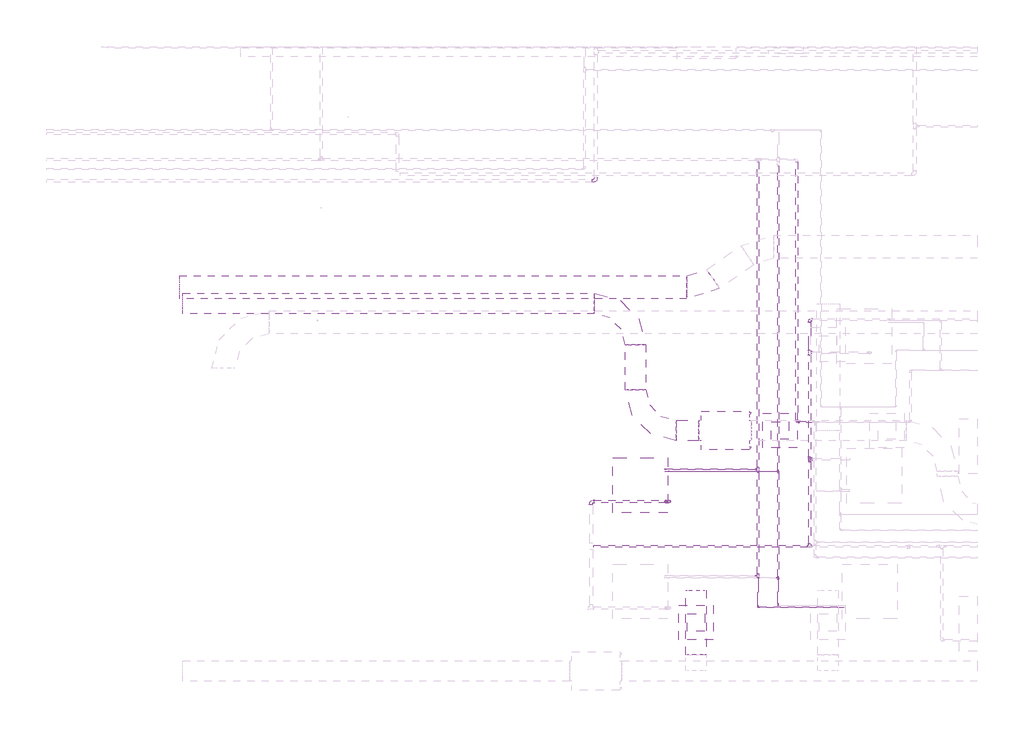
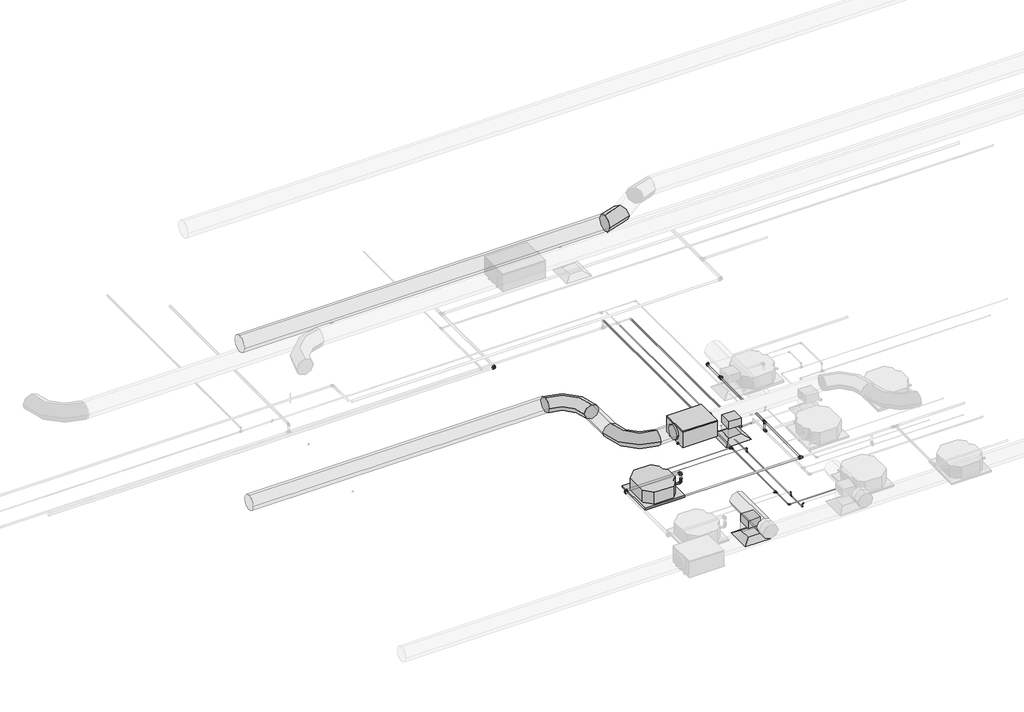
# One storey, part 5 of 21: 30 pipe fittings, 23 pipe segments, 7 duct segments, 5 duct fittings, 2 air terminals, 2 proxies.
"""IFC4 building model written with IfcOpenShell, lengths in millimetres."""

from ifc_helpers import new_model, si_unit, point, frame, frame_2d, origin, place, context, project, spatial, polyline, circle_curve, trimmed, segment, composite_curve, outline, extrude, transform, mapped, element, save
from components import air_terminal_ff221211, mechanical_equipment_53173f38, fh_fh_355_93b582f7, duct_fitting_550a0fe9, duct_fitting_2_d_f5f09e9f, duct_fitting_2_d_8456317d, pipe_fitting_144f4440, pipe_fitting_14eb6376, pipe_fitting_1f557113, pipe_fitting_c8e70db0, pipe_fitting_a5ff4f7d, pipe_fitting_660e7500, pipe_fitting_182e23ec, pipe_fitting_39558790, pipe_fitting_f84f6400, pipe_fitting_260e0dbe, pipe_fitting_6af5823a, pipe_fitting_09a8df96, pipe_fitting_089e84c0, pipe_fitting_006aca9c, pipe_fitting_c294872a, pipe_fitting_03efc798, pipe_fitting_ad1066de, pipe_fitting_b8e29e14, pipe_fitting_fefc82c8, pipe_fitting_c900cfc2, pipe_fitting_16c020f5, pipe_fitting_59d1f3e3, pipe_fitting_ae0032d9, pipe_fitting_5a6d96d3

model = new_model("IFC4")

# Units and contexts
model_context = context("Model", 3, world=origin())
ifc_project = project(units=[si_unit("LENGTHUNIT", "METRE", prefix="MILLI")], contexts=[model_context])

# Site, building, storey
site = spatial("IfcSite", under=ifc_project)
building = spatial("IfcBuilding", under=site)
storey = spatial("IfcBuildingStorey", under=building, Name="Nível 1", Elevation=0.0)

# Air terminals
placement = place(None, origin())
air_terminal_shape = air_terminal_ff221211(model_context)
element("IfcAirTerminal", 1, ObjectType="M_Difusor de retorno : 600 x 600 Face 300 x 300 Conexão", at=placement, inside=storey, context=model_context, shape_type="MappedRepresentation", body=[
    mapped(air_terminal_shape, transform((7458.5065764, -4543.7697994, 3000.0), x_axis=(0.0, -1.0, 0.0), y_axis=(1.0, 0.0, 0.0), z_axis=(0.0, 0.0, 1.0))),
])
element("IfcAirTerminal", 2, ObjectType="M_Difusor de fornecimento : 600 x 600 Face 300 x 300 Conexão", at=placement, inside=storey, context=model_context, shape_type="MappedRepresentation", body=[
    mapped(air_terminal_shape, transform((6000.8158576, -7871.8680027, 3000.0), x_axis=(1.0, 0.0, 0.0), y_axis=(0.0, 1.0, 0.0), z_axis=(0.0, 0.0, 1.0))),
])

# Proxies
mechanical_equipment_shape = mechanical_equipment_53173f38(model_context)
element("IfcBuildingElementProxy", 3, Name="Midea_VRF_Indoor_4-way Cassette_MI-90(100,112,140)Q4_DHN1-D (2nd DC) : MI2-140Q4DHN1", ObjectType="Midea_VRF_Indoor_4-way Cassette_MI-90(100,112,140)Q4_DHN1-D (2nd DC) : MI2-140Q4DHN1", at=placement, inside=storey, context=model_context, shape_type="MappedRepresentation", body=[
    mapped(mechanical_equipment_shape, transform((5033.5065764, -5489.5068427, 3000.4862867), x_axis=(1.0, 0.0, 0.0), y_axis=(0.0, 1.0, 0.0), z_axis=(0.0, 0.0, 1.0))),
])
fh_fh_355_shape = fh_fh_355_93b582f7(model_context)
element("IfcBuildingElementProxy", 4, Name="FH : FH 355", ObjectType="FH : FH 355", at=placement, inside=storey, context=model_context, shape_type="MappedRepresentation", body=[
    mapped(fh_fh_355_shape, transform((6503.1156645, -4543.7697994, 3400.0), x_axis=(0.0, 1.0, 0.0), y_axis=(-1.0, 0.0, 0.0), z_axis=(0.0, 0.0, 1.0))),
])

# Duct fittings
duct_fitting_shape = duct_fitting_550a0fe9(model_context)
element("IfcDuctFitting", 5, ObjectType="M_Encaixe de duto retangular : Padrão", at=placement, inside=storey, context=model_context, shape_type="MappedRepresentation", body=[
    mapped(duct_fitting_shape, transform((7458.5065764, -4543.7697994, 3427.5), x_axis=(0.0, 0.0, -1.0), y_axis=(-1.0, 0.0, 0.0), z_axis=(0.0, 1.0, 0.0))),
])
element("IfcDuctFitting", 6, ObjectType="M_Encaixe de duto retangular : Padrão", at=placement, inside=storey, context=model_context, shape_type="MappedRepresentation", body=[
    mapped(duct_fitting_shape, transform((6000.8158576, -7871.8680027, 3427.5), x_axis=(0.0, 0.0, -1.0), y_axis=(0.0, -1.0, 0.0), z_axis=(-1.0, 0.0, 0.0))),
])
duct_fitting_2_d_shape = duct_fitting_2_d_f5f09e9f(model_context)
element("IfcDuctFitting", 7, ObjectType="M_Cotovelo redondo : 2 D", at=placement, inside=storey, context=model_context, shape_type="MappedRepresentation", body=[
    mapped(duct_fitting_2_d_shape, transform((6090.2097143, -2062.3959861, 7501.0), x_axis=(1.0, 0.0, 0.0), y_axis=(0.0, 1.0, 0.0), z_axis=(0.0, 0.0, 1.0))),
])
duct_fitting_2_d_2_shape = duct_fitting_2_d_8456317d(model_context)
element("IfcDuctFitting", 8, ObjectType="M_Cotovelo redondo : 2 D", at=placement, inside=storey, context=model_context, shape_type="MappedRepresentation", body=[
    mapped(duct_fitting_2_d_2_shape, transform((4949.1156645, -4543.7697994, 3605.0), x_axis=(0.0, -1.0, 0.0), y_axis=(1.0, 0.0, 0.0), z_axis=(0.0, 0.0, 1.0))),
])
element("IfcDuctFitting", 9, ObjectType="M_Cotovelo redondo : 2 D", at=placement, inside=storey, context=model_context, shape_type="MappedRepresentation", body=[
    mapped(duct_fitting_2_d_2_shape, transform((4949.1156645, -2343.7697994, 3605.0), x_axis=(0.0, 1.0, 0.0), y_axis=(-1.0, 0.0, 0.0), z_axis=(0.0, 0.0, 1.0))),
])

# Duct segments
element("IfcDuctSegment", 10, ObjectType="Torneiras / Raio curto", at=placement, inside=storey, context=model_context, shape_type="SweptSolid", body=[
    extrude(outline(composite_curve([segment(trimmed(circle_curve(frame_2d((-4543.7697994, 3605.0)), 177.5), [point((-4366.2697994, 3605.0))], [point((-4543.7697994, 3427.5))], False, "CARTESIAN"), True, "CONTINUOUS"), segment(trimmed(circle_curve(frame_2d((-4543.7697994, 3605.0)), 177.5), [point((-4543.7697994, 3427.5))], [point((-4721.2697994, 3605.0))], False, "CARTESIAN"), True, "CONTINUOUS"), segment(trimmed(circle_curve(frame_2d((-4543.7697994, 3605.0)), 177.5), [point((-4721.2697994, 3605.0))], [point((-4543.7697994, 3782.5))], False, "CARTESIAN"), True, "CONTINUOUS"), segment(trimmed(circle_curve(frame_2d((-4543.7697994, 3605.0)), 177.5), [point((-4543.7697994, 3782.5))], [point((-4366.2697994, 3605.0))], False, "CARTESIAN"), True, "CONTINUOUS")], self_intersect=False)), frame((5659.1156645, 0.0, 0.0), z_axis=(1.0, 0.0, 0.0), x_axis=(0.0, 1.0, 0.0)), (0.0, 0.0, 1.0), 390.0),
])
element("IfcDuctSegment", 11, ObjectType="Torneiras / Raio curto", at=placement, inside=storey, context=model_context, shape_type="SweptSolid", body=[
    extrude(outline(composite_curve([segment(trimmed(circle_curve(frame_2d((3605.0, 4949.1156645)), 177.5), [point((3605.0, 5126.6156645))], [point((3782.5, 4949.1156645))], False, "CARTESIAN"), True, "CONTINUOUS"), segment(trimmed(circle_curve(frame_2d((3605.0, 4949.1156645)), 177.5), [point((3782.5, 4949.1156645))], [point((3605.0, 4771.6156645))], False, "CARTESIAN"), True, "CONTINUOUS"), segment(trimmed(circle_curve(frame_2d((3605.0, 4949.1156645)), 177.5), [point((3605.0, 4771.6156645))], [point((3427.5, 4949.1156645))], False, "CARTESIAN"), True, "CONTINUOUS"), segment(trimmed(circle_curve(frame_2d((3605.0, 4949.1156645)), 177.5), [point((3427.5, 4949.1156645))], [point((3605.0, 5126.6156645))], False, "CARTESIAN"), True, "CONTINUOUS")], self_intersect=False)), frame((0.0, -3833.7697994, 0.0), z_axis=(0.0, 1.0, 0.0), x_axis=(0.0, 0.0, 1.0)), (0.0, 0.0, 1.0), 780.0),
])
element("IfcDuctSegment", 12, ObjectType="Torneiras / Raio curto", at=placement, inside=storey, context=model_context, shape_type="SweptSolid", body=[
    extrude(outline(composite_curve([segment(trimmed(circle_curve(frame_2d((-2343.7697994, 3605.0)), 177.5), [point((-2166.2697994, 3605.0))], [point((-2343.7697994, 3427.5))], False, "CARTESIAN"), True, "CONTINUOUS"), segment(trimmed(circle_curve(frame_2d((-2343.7697994, 3605.0)), 177.5), [point((-2343.7697994, 3427.5))], [point((-2521.2697994, 3605.0))], False, "CARTESIAN"), True, "CONTINUOUS"), segment(trimmed(circle_curve(frame_2d((-2343.7697994, 3605.0)), 177.5), [point((-2521.2697994, 3605.0))], [point((-2343.7697994, 3782.5))], False, "CARTESIAN"), True, "CONTINUOUS"), segment(trimmed(circle_curve(frame_2d((-2343.7697994, 3605.0)), 177.5), [point((-2343.7697994, 3782.5))], [point((-2166.2697994, 3605.0))], False, "CARTESIAN"), True, "CONTINUOUS")], self_intersect=False)), frame((-2892.5218355, 0.0, 0.0), z_axis=(1.0, 0.0, 0.0), x_axis=(0.0, 1.0, 0.0)), (0.0, 0.0, 1.0), 7131.6375),
])
element("IfcDuctSegment", 13, ObjectType="Torneiras / Raio curto", at=placement, inside=storey, context=model_context, shape_type="SweptSolid", body=[
    extrude(outline(composite_curve([segment(trimmed(circle_curve(frame_2d((3605.0, 6000.8158576)), 177.5), [point((3605.0, 6178.3158576))], [point((3782.5, 6000.8158576))], False, "CARTESIAN"), True, "CONTINUOUS"), segment(trimmed(circle_curve(frame_2d((3605.0, 6000.8158576)), 177.5), [point((3782.5, 6000.8158576))], [point((3605.0, 5823.3158576))], False, "CARTESIAN"), True, "CONTINUOUS"), segment(trimmed(circle_curve(frame_2d((3605.0, 6000.8158576)), 177.5), [point((3605.0, 5823.3158576))], [point((3427.5, 6000.8158576))], False, "CARTESIAN"), True, "CONTINUOUS"), segment(trimmed(circle_curve(frame_2d((3605.0, 6000.8158576)), 177.5), [point((3427.5, 6000.8158576))], [point((3605.0, 6178.3158576))], False, "CARTESIAN"), True, "CONTINUOUS")], self_intersect=False)), frame((0.0, -8432.3180027, 0.0), z_axis=(0.0, 1.0, 0.0), x_axis=(0.0, 0.0, 1.0)), (0.0, 0.0, 1.0), 1120.9),
])
element("IfcDuctSegment", 14, ObjectType="Raios cotovelos / torneiras", at=placement, inside=storey, context=model_context, shape_type="SweptSolid", body=[
    extrude(outline(polyline([(7608.5065764, -4693.7697994), (7308.5065764, -4693.7697994), (7308.5065764, -4393.7697994), (7608.5065764, -4393.7697994), (7608.5065764, -4693.7697994)])), frame((0.0, 0.0, 3101.6), z_axis=(0.0, 0.0, 1.0), x_axis=(1.0, 0.0, 0.0)), (0.0, 0.0, 1.0), 224.3),
])
element("IfcDuctSegment", 15, ObjectType="Raios cotovelos / torneiras", at=placement, inside=storey, context=model_context, shape_type="SweptSolid", body=[
    extrude(outline(polyline([(6150.8158576, -7721.8680027), (6150.8158576, -8021.8680027), (5850.8158576, -8021.8680027), (5850.8158576, -7721.8680027), (6150.8158576, -7721.8680027)])), frame((0.0, 0.0, 3101.6), z_axis=(0.0, 0.0, 1.0), x_axis=(1.0, 0.0, 0.0)), (0.0, 0.0, 1.0), 224.3),
])
element("IfcDuctSegment", 16, ObjectType="Torneiras / Raio curto", at=placement, inside=storey, context=model_context, shape_type="SweptSolid", body=[
    extrude(outline(composite_curve([segment(trimmed(circle_curve(frame_2d((-2062.3959861, 7501.0)), 200.0), [point((-1862.3959861, 7501.0))], [point((-2062.3959861, 7301.0))], False, "CARTESIAN"), True, "CONTINUOUS"), segment(trimmed(circle_curve(frame_2d((-2062.3959861, 7501.0)), 200.0), [point((-2062.3959861, 7301.0))], [point((-2262.3959861, 7501.0))], False, "CARTESIAN"), True, "CONTINUOUS"), segment(trimmed(circle_curve(frame_2d((-2062.3959861, 7501.0)), 200.0), [point((-2262.3959861, 7501.0))], [point((-2062.3959861, 7701.0))], False, "CARTESIAN"), True, "CONTINUOUS"), segment(trimmed(circle_curve(frame_2d((-2062.3959861, 7501.0)), 200.0), [point((-2062.3959861, 7701.0))], [point((-1862.3959861, 7501.0))], False, "CARTESIAN"), True, "CONTINUOUS")], self_intersect=False)), frame((-2952.6050864, 0.0, 0.0), z_axis=(1.0, 0.0, 0.0), x_axis=(0.0, 1.0, 0.0)), (0.0, 0.0, 1.0), 8790.5757696),
])

# Pipe fittings
pipe_fitting_shape = pipe_fitting_144f4440(model_context)
element("IfcPipeFitting", 17, ObjectType="Cotovelo - PVC - CW : Padrão", at=placement, inside=storey, context=model_context, shape_type="MappedRepresentation", body=[
    mapped(pipe_fitting_shape, transform((5528.9063239, -5774.5068427, 3252.3085101), x_axis=(1.0, 0.0, 0.0), y_axis=(0.0, 0.0, 1.0), z_axis=(0.0, -1.0, 0.0))),
])
element("IfcPipeFitting", 18, ObjectType="Cotovelo - PVC - CW : Padrão", at=placement, inside=storey, context=model_context, shape_type="MappedRepresentation", body=[
    mapped(pipe_fitting_shape, transform((7970.2375924, -2624.0130524, 3500.0), x_axis=(-1.0, 0.0, 0.0), y_axis=(0.0, -0.9999999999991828, 1.2784687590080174e-06), z_axis=(0.0, 1.2784687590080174e-06, 0.9999999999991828))),
])
pipe_fitting_2_shape = pipe_fitting_14eb6376(model_context)
element("IfcPipeFitting", 19, ObjectType="Tê de redução - PVC - CW : Padrão", at=placement, inside=storey, context=model_context, shape_type="MappedRepresentation", body=[
    mapped(pipe_fitting_2_shape, transform((7970.2375924, -6549.8952412, 3500.0053419), x_axis=(-0.9999999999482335, 0.0, 1.0175120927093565e-05), y_axis=(8.766176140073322e-11, -0.9999999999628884, 8.615304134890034e-06), z_axis=(1.0175120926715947e-05, 8.615304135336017e-06, 0.9999999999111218))),
])
element("IfcPipeFitting", 20, ObjectType="Tê de redução - PVC - CW : Padrão", at=placement, inside=storey, context=model_context, shape_type="MappedRepresentation", body=[
    mapped(pipe_fitting_2_shape, transform((7970.2375924, -3194.0130524, 3500.0007287), x_axis=(0.0, -0.9999999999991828, 1.2784687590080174e-06), y_axis=(-1.0, 0.0, 0.0), z_axis=(0.0, -1.2784687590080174e-06, -0.9999999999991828))),
])
pipe_fitting_3_shape = pipe_fitting_1f557113(model_context)
element("IfcPipeFitting", 21, ObjectType="Redutor de acoplamento - PVC - CW : Padrão", at=placement, inside=storey, context=model_context, shape_type="MappedRepresentation", body=[
    mapped(pipe_fitting_3_shape, transform((5528.9063239, -5774.5068427, 3297.3085101), x_axis=(0.0, 0.0, 1.0), y_axis=(0.0, -1.0, 0.0), z_axis=(1.0, 0.0, 0.0))),
])
pipe_fitting_4_shape = pipe_fitting_c8e70db0(model_context)
element("IfcPipeFitting", 22, ObjectType="Cotovelo - PVC - CW : Padrão", at=placement, inside=storey, context=model_context, shape_type="MappedRepresentation", body=[
    mapped(pipe_fitting_4_shape, transform((5528.9063239, -5774.5068427, 3500.0), x_axis=(0.0, 0.0, 1.0), y_axis=(-1.0, 0.0, 0.0), z_axis=(0.0, -1.0, 0.0))),
])
element("IfcPipeFitting", 23, ObjectType="Cotovelo - PVC - CW : Padrão", at=placement, inside=storey, context=model_context, shape_type="MappedRepresentation", body=[
    mapped(pipe_fitting_4_shape, transform((4180.9794608, -5774.5068427, 3500.0), x_axis=(-1.0, 0.0, 0.0), y_axis=(0.0, -0.9999999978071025, 6.622533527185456e-05), z_axis=(0.0, 6.622533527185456e-05, 0.9999999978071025))),
])
pipe_fitting_5_shape = pipe_fitting_a5ff4f7d(model_context)
element("IfcPipeFitting", 24, ObjectType="Bucha de redução reta - Soldada - CU : Padrão", at=placement, inside=storey, context=model_context, shape_type="MappedRepresentation", body=[
    mapped(pipe_fitting_5_shape, transform((7042.1766328, -7061.6844274, 3252.3001736), x_axis=(-0.9999999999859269, 0.0, 5.305303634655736e-06), y_axis=(0.0, -1.0, 0.0), z_axis=(5.305303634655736e-06, 0.0, 0.9999999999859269))),
])
element("IfcPipeFitting", 25, ObjectType="Bucha de redução reta - Soldada - CU : Padrão", at=placement, inside=storey, context=model_context, shape_type="MappedRepresentation", body=[
    mapped(pipe_fitting_5_shape, transform((7074.9048355, -7094.4315274, 3252.7945252), x_axis=(0.0, -1.0, 0.0), y_axis=(0.9999999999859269, 0.0, -5.305303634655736e-06), z_axis=(5.305303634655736e-06, 0.0, 0.9999999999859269))),
])
pipe_fitting_6_shape = pipe_fitting_660e7500(model_context)
element("IfcPipeFitting", 26, ObjectType="Tê - Soldado - CU : Padrão", at=placement, inside=storey, context=model_context, shape_type="MappedRepresentation", body=[
    mapped(pipe_fitting_6_shape, transform((7074.9048355, -7061.6844274, 3252.7945252), x_axis=(0.0, 1.0, 0.0), y_axis=(0.9999999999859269, 0.0, -5.305303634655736e-06), z_axis=(-5.305303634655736e-06, 0.0, -0.9999999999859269))),
])
pipe_fitting_7_shape = pipe_fitting_182e23ec(model_context)
element("IfcPipeFitting", 27, ObjectType="Bucha de redução reta - Soldada - CU : Padrão", at=placement, inside=storey, context=model_context, shape_type="MappedRepresentation", body=[
    mapped(pipe_fitting_7_shape, transform((7036.4048355, -5216.296029, 3252.7947295), x_axis=(-0.9999999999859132, 0.0, 5.307894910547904e-06), y_axis=(0.0, -1.0, 0.0), z_axis=(5.307894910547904e-06, 0.0, 0.9999999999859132))),
])
pipe_fitting_8_shape = pipe_fitting_39558790(model_context)
element("IfcPipeFitting", 28, ObjectType="Bucha de redução reta - Soldada - CU : Padrão", at=placement, inside=storey, context=model_context, shape_type="MappedRepresentation", body=[
    mapped(pipe_fitting_8_shape, transform((7074.9048328, -5254.296029, 3252.3), x_axis=(0.0, -1.0, 0.0), y_axis=(0.9999999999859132, 0.0, -5.307894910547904e-06), z_axis=(5.307894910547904e-06, 0.0, 0.9999999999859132))),
])
pipe_fitting_9_shape = pipe_fitting_f84f6400(model_context)
element("IfcPipeFitting", 29, ObjectType="Tê - Soldado - CU : Padrão", at=placement, inside=storey, context=model_context, shape_type="MappedRepresentation", body=[
    mapped(pipe_fitting_9_shape, transform((7424.7363367, -7095.4868693, 3052.2679138), x_axis=(0.0, 0.999999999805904, 1.9702587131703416e-05), y_axis=(0.0, 1.9702587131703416e-05, -0.999999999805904), z_axis=(-1.0, 0.0, 0.0))),
])
element("IfcPipeFitting", 30, ObjectType="Tê - Soldado - CU : Padrão", at=placement, inside=storey, context=model_context, shape_type="MappedRepresentation", body=[
    mapped(pipe_fitting_9_shape, transform((7424.7363367, -5250.0984709, 3052.3042727), x_axis=(0.0, 0.999999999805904, 1.9702587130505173e-05), y_axis=(0.0, 1.9702587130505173e-05, -0.999999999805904), z_axis=(-1.0, 0.0, 0.0))),
])
pipe_fitting_10_shape = pipe_fitting_260e0dbe(model_context)
element("IfcPipeFitting", 31, ObjectType="Cotovelo - Soldado - CU : Padrão", at=placement, inside=storey, context=model_context, shape_type="MappedRepresentation", body=[
    mapped(pipe_fitting_10_shape, transform((7424.7363367, -7095.4868693, 3147.3458787), x_axis=(0.0, 0.0, 1.0), y_axis=(-1.0, 0.0, 0.0), z_axis=(0.0, -1.0, 0.0))),
])
pipe_fitting_11_shape = pipe_fitting_6af5823a(model_context)
element("IfcPipeFitting", 32, ObjectType="Bucha de redução reta - Soldada - CU : Padrão", at=placement, inside=storey, context=model_context, shape_type="MappedRepresentation", body=[
    mapped(pipe_fitting_11_shape, transform((7424.7363367, -7117.0643692, 3052.2674887), x_axis=(0.0, -0.999999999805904, -1.9702587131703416e-05), y_axis=(1.0, 0.0, 0.0), z_axis=(0.0, -1.9702587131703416e-05, 0.999999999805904))),
])
pipe_fitting_12_shape = pipe_fitting_09a8df96(model_context)
element("IfcPipeFitting", 33, ObjectType="Cotovelo - Soldado - CU : Padrão", at=placement, inside=storey, context=model_context, shape_type="MappedRepresentation", body=[
    mapped(pipe_fitting_12_shape, transform((7424.7363208, -7574.3036129, 3147.2459687), x_axis=(-0.9999999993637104, 0.0, -3.5673226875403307e-05), y_axis=(3.5673226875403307e-05, 0.0, -0.9999999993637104), z_axis=(0.0, -1.0, 0.0))),
])
pipe_fitting_13_shape = pipe_fitting_089e84c0(model_context)
element("IfcPipeFitting", 34, ObjectType="Bucha de redução reta - Soldada - CU : Padrão", at=placement, inside=storey, context=model_context, shape_type="MappedRepresentation", body=[
    mapped(pipe_fitting_13_shape, transform((7424.7363208, -7574.3036129, 3122.8459687), x_axis=(0.0, 0.0, -1.0), y_axis=(-1.0, 0.0, 0.0), z_axis=(0.0, 1.0, 0.0))),
])
pipe_fitting_14_shape = pipe_fitting_006aca9c(model_context)
element("IfcPipeFitting", 35, ObjectType="Cotovelo - Soldado - CU : Padrão", at=placement, inside=storey, context=model_context, shape_type="MappedRepresentation", body=[
    mapped(pipe_fitting_14_shape, transform((7424.7363367, -7574.3036129, 3052.2584799), x_axis=(0.0, 0.0, -1.0), y_axis=(0.0, 1.0, 0.0), z_axis=(1.0, 0.0, 0.0))),
])
pipe_fitting_15_shape = pipe_fitting_c294872a(model_context)
element("IfcPipeFitting", 36, ObjectType="Cotovelo - Soldado - CU : Padrão", at=placement, inside=storey, context=model_context, shape_type="MappedRepresentation", body=[
    mapped(pipe_fitting_15_shape, transform((4261.4781645, -211.984439, 3252.3), x_axis=(1.0, 0.0, 0.0), y_axis=(0.0, 1.0, 0.0), z_axis=(0.0, 0.0, 1.0))),
])
pipe_fitting_16_shape = pipe_fitting_03efc798(model_context)
element("IfcPipeFitting", 37, ObjectType="Tê de redução - PVC - CW : Padrão", at=placement, inside=storey, context=model_context, shape_type="MappedRepresentation", body=[
    mapped(pipe_fitting_16_shape, transform((7970.2375924, -5040.569149, 3500.0030895), x_axis=(0.0, -0.9999999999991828, 1.2784687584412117e-06), y_axis=(0.0, 1.2784687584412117e-06, 0.9999999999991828), z_axis=(-1.0, 0.0, 0.0))),
])
pipe_fitting_17_shape = pipe_fitting_ad1066de(model_context)
element("IfcPipeFitting", 38, ObjectType="Cotovelo - PVC - CW : Padrão", at=placement, inside=storey, context=model_context, shape_type="MappedRepresentation", body=[
    mapped(pipe_fitting_17_shape, transform((7970.2375924, -5040.569149, 3252.2994084), x_axis=(0.0, 0.0, -1.0), y_axis=(1.0, 0.0, 0.0), z_axis=(0.0, -1.0, 0.0))),
])
pipe_fitting_18_shape = pipe_fitting_b8e29e14(model_context)
element("IfcPipeFitting", 39, ObjectType="Cotovelo - Soldado - CU : Padrão", at=placement, inside=storey, context=model_context, shape_type="MappedRepresentation", body=[
    mapped(pipe_fitting_18_shape, transform((7424.7363367, -5250.0984709, 3147.7750341), x_axis=(0.0, 0.0, 1.0), y_axis=(-1.0, 0.0, 0.0), z_axis=(0.0, -1.0, 0.0))),
])
pipe_fitting_19_shape = pipe_fitting_fefc82c8(model_context)
element("IfcPipeFitting", 40, ObjectType="Cotovelo - Soldado - CU : Padrão", at=placement, inside=storey, context=model_context, shape_type="MappedRepresentation", body=[
    mapped(pipe_fitting_19_shape, transform((7747.1766922, -4398.7799626, 3052.3), x_axis=(0.0, -1.0, 0.0), y_axis=(1.0, 0.0, 0.0), z_axis=(0.0, 0.0, 1.0))),
])
pipe_fitting_20_shape = pipe_fitting_c900cfc2(model_context)
element("IfcPipeFitting", 41, ObjectType="Bucha de redução reta - Soldada - CU : Padrão", at=placement, inside=storey, context=model_context, shape_type="MappedRepresentation", body=[
    mapped(pipe_fitting_20_shape, transform((5458.5065764, -5216.296029, 3252.3085101), x_axis=(1.0, 0.0, 0.0), y_axis=(0.0, 1.0, 0.0), z_axis=(0.0, 0.0, 1.0))),
])
pipe_fitting_21_shape = pipe_fitting_16c020f5(model_context)
element("IfcPipeFitting", 42, ObjectType="Cotovelo - Soldado - CU : Padrão", at=placement, inside=storey, context=model_context, shape_type="MappedRepresentation", body=[
    mapped(pipe_fitting_21_shape, transform((7074.9048355, -7608.1060547, 3252.7945252), x_axis=(0.0, -1.0, 0.0), y_axis=(0.9999999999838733, 0.0, 5.679216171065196e-06), z_axis=(-5.679216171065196e-06, 0.0, 0.9999999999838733))),
])
pipe_fitting_22_shape = pipe_fitting_59d1f3e3(model_context)
element("IfcPipeFitting", 43, ObjectType="Bucha de redução reta - Soldada - CU : Padrão", at=placement, inside=storey, context=model_context, shape_type="MappedRepresentation", body=[
    mapped(pipe_fitting_22_shape, transform((5518.9808167, -5250.0984709, 3147.3309354), x_axis=(1.0, 0.0, 0.0), y_axis=(0.0, 1.0, 0.0), z_axis=(0.0, 0.0, 1.0))),
])
pipe_fitting_23_shape = pipe_fitting_ae0032d9(model_context)
element("IfcPipeFitting", 44, ObjectType="Tê - Soldado - CU : Padrão", at=placement, inside=storey, context=model_context, shape_type="MappedRepresentation", body=[
    mapped(pipe_fitting_23_shape, transform((7074.9048355, -5216.296029, 3252.7945252), x_axis=(0.0, 1.0, 0.0), y_axis=(0.9999999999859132, 0.0, -5.307894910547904e-06), z_axis=(-5.307894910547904e-06, 0.0, -0.9999999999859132))),
])
pipe_fitting_24_shape = pipe_fitting_5a6d96d3(model_context)
element("IfcPipeFitting", 45, ObjectType="Bucha de redução reta - Soldada - CU : Padrão", at=placement, inside=storey, context=model_context, shape_type="MappedRepresentation", body=[
    mapped(pipe_fitting_24_shape, transform((7424.7363367, -7095.4868693, 3080.9739138), x_axis=(0.0, 0.0, 1.0), y_axis=(0.0, -1.0, 0.0), z_axis=(1.0, 0.0, 0.0))),
])
element("IfcPipeFitting", 46, ObjectType="Bucha de redução reta - Soldada - CU : Padrão", at=placement, inside=storey, context=model_context, shape_type="MappedRepresentation", body=[
    mapped(pipe_fitting_24_shape, transform((7424.7363367, -5250.0984709, 3081.0102727), x_axis=(0.0, 0.0, 1.0), y_axis=(0.0, -1.0, 0.0), z_axis=(1.0, 0.0, 0.0))),
])

# Pipe segments
element("IfcPipeSegment", 47, ObjectType="Tubos de cobre HVAC", at=placement, inside=storey, context=model_context, shape_type="SweptSolid", body=[
    extrude(outline(composite_curve([segment(trimmed(circle_curve(frame_2d((-5216.296029, 3252.7947967)), 7.935), [point((-5224.231029, 3252.7947967))], [point((-5216.296029, 3260.7297967))], False, "CARTESIAN"), True, "CONTINUOUS"), segment(trimmed(circle_curve(frame_2d((-5216.296029, 3252.7947967)), 7.935), [point((-5216.296029, 3260.7297967))], [point((-5208.361029, 3252.7947967))], False, "CARTESIAN"), True, "CONTINUOUS"), segment(trimmed(circle_curve(frame_2d((-5216.296029, 3252.7947967)), 7.935), [point((-5208.361029, 3252.7947967))], [point((-5216.296029, 3244.8597967))], False, "CARTESIAN"), True, "CONTINUOUS"), segment(trimmed(circle_curve(frame_2d((-5216.296029, 3252.7947967)), 7.935), [point((-5216.296029, 3244.8597967))], [point((-5224.231029, 3252.7947967))], False, "CARTESIAN"), True, "CONTINUOUS")], self_intersect=False)), frame((5471.1654764, 0.0, 0.0), z_axis=(1.0, 0.0, 0.0), x_axis=(0.0, 1.0, 0.0)), (0.0, 0.0, 1.0), 1552.580459),
])
element("IfcPipeSegment", 48, ObjectType="Tubos de cobre HVAC", at=placement, inside=storey, context=model_context, shape_type="SweptSolid", body=[
    extrude(outline(composite_curve([segment(trimmed(circle_curve(frame_2d((0.0, 4.7599999)), 4.76), [point((-4.76, 4.7599999))], [point((0.0, 9.52))], False, "CARTESIAN"), True, "CONTINUOUS"), segment(trimmed(circle_curve(frame_2d((0.0, 4.7599999)), 4.76), [point((0.0, 9.52))], [point((4.76, 4.7599999))], False, "CARTESIAN"), True, "CONTINUOUS"), segment(trimmed(circle_curve(frame_2d((0.0, 4.7599999)), 4.76), [point((4.76, 4.7599999))], [point((0.0, 0.0))], False, "CARTESIAN"), True, "CONTINUOUS"), segment(trimmed(circle_curve(frame_2d((0.0, 4.7599999)), 4.76), [point((0.0, 0.0))], [point((-4.76, 4.7599999))], False, "CARTESIAN"), True, "CONTINUOUS")], self_intersect=False)), frame((5528.6563316, -5250.0984709, 3142.5709356), z_axis=(0.9999999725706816, 0.0, 0.00023421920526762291), x_axis=(0.0, 1.0, 0.0)), (0.0, 0.0, 1.0), 1872.0555714),
])
element("IfcPipeSegment", 49, ObjectType="Plástico", at=placement, inside=storey, context=model_context, shape_type="SweptSolid", body=[
    extrude(outline(composite_curve([segment(trimmed(circle_curve(frame_2d((-5774.5068427, 3500.0)), 25.0), [point((-5749.5068427, 3500.0))], [point((-5774.5068427, 3475.0))], False, "CARTESIAN"), True, "CONTINUOUS"), segment(trimmed(circle_curve(frame_2d((-5774.5068427, 3500.0)), 25.0), [point((-5774.5068427, 3475.0))], [point((-5799.5068427, 3500.0))], False, "CARTESIAN"), True, "CONTINUOUS"), segment(trimmed(circle_curve(frame_2d((-5774.5068427, 3500.0)), 25.0), [point((-5799.5068427, 3500.0))], [point((-5774.5068427, 3525.0))], False, "CARTESIAN"), True, "CONTINUOUS"), segment(trimmed(circle_curve(frame_2d((-5774.5068427, 3500.0)), 25.0), [point((-5774.5068427, 3525.0))], [point((-5749.5068427, 3500.0))], False, "CARTESIAN"), True, "CONTINUOUS")], self_intersect=False)), frame((4234.9794608, 0.0, 0.0), z_axis=(1.0, 0.0, 0.0), x_axis=(0.0, 1.0, 0.0)), (0.0, 0.0, 1.0), 1239.9268631),
])
element("IfcPipeSegment", 50, ObjectType="Plástico", at=placement, inside=storey, context=model_context, shape_type="SweptSolid", body=[
    extrude(outline(composite_curve([segment(trimmed(circle_curve(frame_2d((-5774.5068427, 3252.3085101)), 20.0), [point((-5794.5068427, 3252.3085101))], [point((-5774.5068427, 3272.3085101))], False, "CARTESIAN"), True, "CONTINUOUS"), segment(trimmed(circle_curve(frame_2d((-5774.5068427, 3252.3085101)), 20.0), [point((-5774.5068427, 3272.3085101))], [point((-5754.5068427, 3252.3085101))], False, "CARTESIAN"), True, "CONTINUOUS"), segment(trimmed(circle_curve(frame_2d((-5774.5068427, 3252.3085101)), 20.0), [point((-5754.5068427, 3252.3085101))], [point((-5774.5068427, 3232.3085101))], False, "CARTESIAN"), True, "CONTINUOUS"), segment(trimmed(circle_curve(frame_2d((-5774.5068427, 3252.3085101)), 20.0), [point((-5774.5068427, 3232.3085101))], [point((-5794.5068427, 3252.3085101))], False, "CARTESIAN"), True, "CONTINUOUS")], self_intersect=False)), frame((5458.5065764, 0.0, 0.0), z_axis=(1.0, 0.0, 0.0), x_axis=(0.0, 1.0, 0.0)), (0.0, 0.0, 1.0), 25.3997474),
])
element("IfcPipeSegment", 51, ObjectType="Plástico", at=placement, inside=storey, context=model_context, shape_type="SweptSolid", body=[
    extrude(outline(composite_curve([segment(trimmed(circle_curve(frame_2d((5528.9063239, -5774.5068427)), 25.0), [point((5503.9063239, -5774.5068427))], [point((5528.9063239, -5749.5068427))], False, "CARTESIAN"), True, "CONTINUOUS"), segment(trimmed(circle_curve(frame_2d((5528.9063239, -5774.5068427)), 25.0), [point((5528.9063239, -5749.5068427))], [point((5553.9063239, -5774.5068427))], False, "CARTESIAN"), True, "CONTINUOUS"), segment(trimmed(circle_curve(frame_2d((5528.9063239, -5774.5068427)), 25.0), [point((5553.9063239, -5774.5068427))], [point((5528.9063239, -5799.5068427))], False, "CARTESIAN"), True, "CONTINUOUS"), segment(trimmed(circle_curve(frame_2d((5528.9063239, -5774.5068427)), 25.0), [point((5528.9063239, -5799.5068427))], [point((5503.9063239, -5774.5068427))], False, "CARTESIAN"), True, "CONTINUOUS")], self_intersect=False)), frame((0.0, 0.0, 3358.5085101), z_axis=(0.0, 0.0, 1.0), x_axis=(1.0, 0.0, 0.0)), (0.0, 0.0, 1.0), 87.4914899),
])
element("IfcPipeSegment", 52, ObjectType="Plástico", at=placement, inside=storey, context=model_context, shape_type="SweptSolid", body=[
    extrude(outline(composite_curve([segment(trimmed(circle_curve(frame_2d((-6549.8952412, 3500.005782)), 20.0), [point((-6569.8952412, 3500.005782))], [point((-6549.8952412, 3520.005782))], False, "CARTESIAN"), True, "CONTINUOUS"), segment(trimmed(circle_curve(frame_2d((-6549.8952412, 3500.005782)), 20.0), [point((-6549.8952412, 3520.005782))], [point((-6529.8952412, 3500.005782))], False, "CARTESIAN"), True, "CONTINUOUS"), segment(trimmed(circle_curve(frame_2d((-6549.8952412, 3500.005782)), 20.0), [point((-6529.8952412, 3500.005782))], [point((-6549.8952412, 3480.005782))], False, "CARTESIAN"), True, "CONTINUOUS"), segment(trimmed(circle_curve(frame_2d((-6549.8952412, 3500.005782)), 20.0), [point((-6549.8952412, 3480.005782))], [point((-6569.8952412, 3500.005782))], False, "CARTESIAN"), True, "CONTINUOUS")], self_intersect=False)), frame((4228.5794608, 0.0, 0.0), z_axis=(1.0, 0.0, 0.0), x_axis=(0.0, 1.0, 0.0)), (0.0, 0.0, 1.0), 3698.4081316),
])
element("IfcPipeSegment", 53, ObjectType="Tubos de cobre HVAC", at=placement, inside=storey, context=model_context, shape_type="SweptSolid", body=[
    extrude(outline(composite_curve([segment(trimmed(circle_curve(frame_2d((3252.7945252, 7074.9048355)), 14.0), [point((3252.7945252, 7088.9048355))], [point((3266.7945252, 7074.9048355))], False, "CARTESIAN"), True, "CONTINUOUS"), segment(trimmed(circle_curve(frame_2d((3252.7945252, 7074.9048355)), 14.0), [point((3266.7945252, 7074.9048355))], [point((3252.7945252, 7060.9048355))], False, "CARTESIAN"), True, "CONTINUOUS"), segment(trimmed(circle_curve(frame_2d((3252.7945252, 7074.9048355)), 14.0), [point((3252.7945252, 7060.9048355))], [point((3238.7945252, 7074.9048355))], False, "CARTESIAN"), True, "CONTINUOUS"), segment(trimmed(circle_curve(frame_2d((3252.7945252, 7074.9048355)), 14.0), [point((3238.7945252, 7074.9048355))], [point((3252.7945252, 7088.9048355))], False, "CARTESIAN"), True, "CONTINUOUS")], self_intersect=False)), frame((0.0, -5178.296029, 0.0), z_axis=(0.0, 1.0, 0.0), x_axis=(0.0, 0.0, 1.0)), (0.0, 0.0, 1.0), 5289.8568656),
])
element("IfcPipeSegment", 54, ObjectType="Tubos de cobre HVAC", at=placement, inside=storey, context=model_context, shape_type="SweptSolid", body=[
    extrude(outline(composite_curve([segment(trimmed(circle_curve(frame_2d((3252.7945252, 7074.9048355)), 7.935), [point((3252.7945252, 7066.9698355))], [point((3244.8595252, 7074.9048355))], False, "CARTESIAN"), True, "CONTINUOUS"), segment(trimmed(circle_curve(frame_2d((3252.7945252, 7074.9048355)), 7.935), [point((3244.8595252, 7074.9048355))], [point((3252.7945252, 7082.8398355))], False, "CARTESIAN"), True, "CONTINUOUS"), segment(trimmed(circle_curve(frame_2d((3252.7945252, 7074.9048355)), 7.935), [point((3252.7945252, 7082.8398355))], [point((3260.7295252, 7074.9048355))], False, "CARTESIAN"), True, "CONTINUOUS"), segment(trimmed(circle_curve(frame_2d((3252.7945252, 7074.9048355)), 7.935), [point((3260.7295252, 7074.9048355))], [point((3252.7945252, 7066.9698355))], False, "CARTESIAN"), True, "CONTINUOUS")], self_intersect=False)), frame((0.0, -7579.1274547, 0.0), z_axis=(0.0, 1.0, 0.0), x_axis=(0.0, 0.0, 1.0)), (0.0, 0.0, 1.0), 472.0370273),
])
element("IfcPipeSegment", 55, ObjectType="Tubos de cobre HVAC", at=placement, inside=storey, context=model_context, shape_type="SweptSolid", body=[
    extrude(outline(composite_curve([segment(trimmed(circle_curve(frame_2d((3252.7945252, 7074.9048355)), 11.11), [point((3252.7945252, 7063.7948355))], [point((3241.6845252, 7074.9048355))], False, "CARTESIAN"), True, "CONTINUOUS"), segment(trimmed(circle_curve(frame_2d((3252.7945252, 7074.9048355)), 11.11), [point((3241.6845252, 7074.9048355))], [point((3252.7945252, 7086.0148355))], False, "CARTESIAN"), True, "CONTINUOUS"), segment(trimmed(circle_curve(frame_2d((3252.7945252, 7074.9048355)), 11.11), [point((3252.7945252, 7086.0148355))], [point((3263.9045252, 7074.9048355))], False, "CARTESIAN"), True, "CONTINUOUS"), segment(trimmed(circle_curve(frame_2d((3252.7945252, 7074.9048355)), 11.11), [point((3263.9045252, 7074.9048355))], [point((3252.7945252, 7063.7948355))], False, "CARTESIAN"), True, "CONTINUOUS")], self_intersect=False)), frame((0.0, -7028.9373274, 0.0), z_axis=(0.0, 1.0, 0.0), x_axis=(0.0, 0.0, 1.0)), (0.0, 0.0, 1.0), 1758.9978984),
])
element("IfcPipeSegment", 56, ObjectType="Tubos de cobre HVAC", at=placement, inside=storey, context=model_context, shape_type="SweptSolid", body=[
    extrude(outline(composite_curve([segment(trimmed(circle_curve(frame_2d((-7608.1060547, 3252.7946898)), 7.935), [point((-7600.1710547, 3252.7946898))], [point((-7608.1060547, 3244.8596898))], False, "CARTESIAN"), True, "CONTINUOUS"), segment(trimmed(circle_curve(frame_2d((-7608.1060547, 3252.7946898)), 7.935), [point((-7608.1060547, 3244.8596898))], [point((-7616.0410547, 3252.7946898))], False, "CARTESIAN"), True, "CONTINUOUS"), segment(trimmed(circle_curve(frame_2d((-7608.1060547, 3252.7946898)), 7.935), [point((-7616.0410547, 3252.7946898))], [point((-7608.1060547, 3260.7296898))], False, "CARTESIAN"), True, "CONTINUOUS"), segment(trimmed(circle_curve(frame_2d((-7608.1060547, 3252.7946898)), 7.935), [point((-7608.1060547, 3260.7296898))], [point((-7600.1710547, 3252.7946898))], False, "CARTESIAN"), True, "CONTINUOUS")], self_intersect=False)), frame((7103.8834355, 0.0, 0.0), z_axis=(1.0, 0.0, 0.0), x_axis=(0.0, 1.0, 0.0)), (0.0, 0.0, 1.0), 1469.4770033),
])
element("IfcPipeSegment", 57, ObjectType="Tubos de cobre HVAC", at=placement, inside=storey, context=model_context, shape_type="SweptSolid", body=[
    extrude(outline(composite_curve([segment(trimmed(circle_curve(frame_2d((3052.3, 7747.1766922)), 14.0), [point((3052.3, 7733.1766922))], [point((3038.3, 7747.1766922))], False, "CARTESIAN"), True, "CONTINUOUS"), segment(trimmed(circle_curve(frame_2d((3052.3, 7747.1766922)), 14.0), [point((3038.3, 7747.1766922))], [point((3052.3, 7761.1766922))], False, "CARTESIAN"), True, "CONTINUOUS"), segment(trimmed(circle_curve(frame_2d((3052.3, 7747.1766922)), 14.0), [point((3052.3, 7761.1766922))], [point((3066.3, 7747.1766922))], False, "CARTESIAN"), True, "CONTINUOUS"), segment(trimmed(circle_curve(frame_2d((3052.3, 7747.1766922)), 14.0), [point((3066.3, 7747.1766922))], [point((3052.3, 7733.1766922))], False, "CARTESIAN"), True, "CONTINUOUS")], self_intersect=False)), frame((0.0, -4356.5799626, 0.0), z_axis=(0.0, 1.0, 0.0), x_axis=(0.0, 0.0, 1.0)), (0.0, 0.0, 1.0), 4468.1407992),
])
element("IfcPipeSegment", 58, ObjectType="Tubos de cobre HVAC", at=placement, inside=storey, context=model_context, shape_type="SweptSolid", body=[
    extrude(outline(composite_curve([segment(trimmed(circle_curve(frame_2d((-4398.7799626, 3052.3)), 14.0), [point((-4412.7799626, 3052.3))], [point((-4398.7799626, 3066.3))], False, "CARTESIAN"), True, "CONTINUOUS"), segment(trimmed(circle_curve(frame_2d((-4398.7799626, 3052.3)), 14.0), [point((-4398.7799626, 3066.3))], [point((-4384.7799626, 3052.3))], False, "CARTESIAN"), True, "CONTINUOUS"), segment(trimmed(circle_curve(frame_2d((-4398.7799626, 3052.3)), 14.0), [point((-4384.7799626, 3052.3))], [point((-4398.7799626, 3038.3))], False, "CARTESIAN"), True, "CONTINUOUS"), segment(trimmed(circle_curve(frame_2d((-4398.7799626, 3052.3)), 14.0), [point((-4398.7799626, 3038.3))], [point((-4412.7799626, 3052.3))], False, "CARTESIAN"), True, "CONTINUOUS")], self_intersect=False)), frame((7789.3766922, 0.0, 0.0), z_axis=(1.0, 0.0, 0.0), x_axis=(0.0, 1.0, 0.0)), (0.0, 0.0, 1.0), 235.1551101),
])
element("IfcPipeSegment", 59, ObjectType="Tubos de cobre HVAC", at=placement, inside=storey, context=model_context, shape_type="SweptSolid", body=[
    extrude(outline(composite_curve([segment(trimmed(circle_curve(frame_2d((0.0, -4.76)), 4.76), [point((0.0, 0.0))], [point((4.76, -4.76))], False, "CARTESIAN"), True, "CONTINUOUS"), segment(trimmed(circle_curve(frame_2d((0.0, -4.76)), 4.76), [point((4.76, -4.76))], [point((0.0, -9.52))], False, "CARTESIAN"), True, "CONTINUOUS"), segment(trimmed(circle_curve(frame_2d((0.0, -4.76)), 4.76), [point((0.0, -9.52))], [point((-4.76, -4.76))], False, "CARTESIAN"), True, "CONTINUOUS"), segment(trimmed(circle_curve(frame_2d((0.0, -4.76)), 4.76), [point((-4.76, -4.76))], [point((0.0, 0.0))], False, "CARTESIAN"), True, "CONTINUOUS")], self_intersect=False)), frame((7419.9763367, -7550.2780129, 3052.2589532), z_axis=(0.0, 0.9999999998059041, 1.9702587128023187e-05), x_axis=(0.0, 1.9702587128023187e-05, -0.9999999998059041)), (0.0, 0.0, 1.0), 423.5392438),
])
element("IfcPipeSegment", 60, ObjectType="Tubos de cobre HVAC", at=placement, inside=storey, context=model_context, shape_type="SweptSolid", body=[
    extrude(outline(composite_curve([segment(trimmed(circle_curve(frame_2d((7424.7363367, -7095.4868693)), 4.76), [point((7419.9763367, -7095.4868693))], [point((7424.7363367, -7090.7268693))], False, "CARTESIAN"), True, "CONTINUOUS"), segment(trimmed(circle_curve(frame_2d((7424.7363367, -7095.4868693)), 4.76), [point((7424.7363367, -7090.7268693))], [point((7429.4963367, -7095.4868693))], False, "CARTESIAN"), True, "CONTINUOUS"), segment(trimmed(circle_curve(frame_2d((7424.7363367, -7095.4868693)), 4.76), [point((7429.4963367, -7095.4868693))], [point((7424.7363367, -7100.2468693))], False, "CARTESIAN"), True, "CONTINUOUS"), segment(trimmed(circle_curve(frame_2d((7424.7363367, -7095.4868693)), 4.76), [point((7424.7363367, -7100.2468693))], [point((7419.9763367, -7095.4868693))], False, "CARTESIAN"), True, "CONTINUOUS")], self_intersect=False)), frame((0.0, 0.0, 3090.6483138), z_axis=(0.0, 0.0, 1.0), x_axis=(1.0, 0.0, 0.0)), (0.0, 0.0, 1.0), 32.6719649),
])
element("IfcPipeSegment", 61, ObjectType="Tubos de cobre HVAC", at=placement, inside=storey, context=model_context, shape_type="SweptSolid", body=[
    extrude(outline(composite_curve([segment(trimmed(circle_curve(frame_2d((0.0, -6.35)), 6.35), [point((0.0, 0.0))], [point((6.35, -6.35))], False, "CARTESIAN"), True, "CONTINUOUS"), segment(trimmed(circle_curve(frame_2d((0.0, -6.35)), 6.35), [point((6.35, -6.35))], [point((0.0, -12.7))], False, "CARTESIAN"), True, "CONTINUOUS"), segment(trimmed(circle_curve(frame_2d((0.0, -6.35)), 6.35), [point((0.0, -12.7))], [point((-6.35, -6.35))], False, "CARTESIAN"), True, "CONTINUOUS"), segment(trimmed(circle_curve(frame_2d((0.0, -6.35)), 6.35), [point((-6.35, -6.35))], [point((0.0, 0.0))], False, "CARTESIAN"), True, "CONTINUOUS")], self_intersect=False)), frame((7418.3863367, -7073.9093693, 3052.2683389), z_axis=(0.0, 0.9999999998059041, 1.9702587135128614e-05), x_axis=(0.0, 1.9702587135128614e-05, -0.9999999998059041)), (0.0, 0.0, 1.0), 1802.2333988),
])
element("IfcPipeSegment", 62, ObjectType="Tubos de cobre HVAC", at=placement, inside=storey, context=model_context, shape_type="SweptSolid", body=[
    extrude(outline(composite_curve([segment(trimmed(circle_curve(frame_2d((0.0, -4.76)), 4.76), [point((-4.76, -4.76))], [point((0.0, 0.0))], False, "CARTESIAN"), True, "CONTINUOUS"), segment(trimmed(circle_curve(frame_2d((0.0, -4.76)), 4.76), [point((0.0, 0.0))], [point((4.76, -4.76))], False, "CARTESIAN"), True, "CONTINUOUS"), segment(trimmed(circle_curve(frame_2d((0.0, -4.76)), 4.76), [point((4.76, -4.76))], [point((0.0, -9.52))], False, "CARTESIAN"), True, "CONTINUOUS"), segment(trimmed(circle_curve(frame_2d((0.0, -4.76)), 4.76), [point((0.0, -9.52))], [point((-4.76, -4.76))], False, "CARTESIAN"), True, "CONTINUOUS")], self_intersect=False)), frame((7424.7363367, -7579.0636129, 3076.2840799), z_axis=(-4.3128831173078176e-07, 0.0, 0.9999999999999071), x_axis=(-0.9999999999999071, 0.0, -4.3128831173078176e-07)), (0.0, 0.0, 1.0), 36.8874889),
])
element("IfcPipeSegment", 63, ObjectType="Plástico", at=placement, inside=storey, context=model_context, shape_type="SweptSolid", body=[
    extrude(outline(composite_curve([segment(trimmed(circle_curve(frame_2d((0.0, 20.0)), 20.0), [point((0.0, 40.0))], [point((20.0, 20.0))], False, "CARTESIAN"), True, "CONTINUOUS"), segment(trimmed(circle_curve(frame_2d((0.0, 20.0)), 20.0), [point((20.0, 20.0))], [point((0.0, 0.0))], False, "CARTESIAN"), True, "CONTINUOUS"), segment(trimmed(circle_curve(frame_2d((0.0, 20.0)), 20.0), [point((0.0, 0.0))], [point((-20.0, 20.0))], False, "CARTESIAN"), True, "CONTINUOUS"), segment(trimmed(circle_curve(frame_2d((0.0, 20.0)), 20.0), [point((-20.0, 20.0))], [point((0.0, 40.0))], False, "CARTESIAN"), True, "CONTINUOUS")], self_intersect=False)), frame((7950.2375924, -3150.7630524, 3500.0006734), z_axis=(8.026752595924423e-12, 1.0, 0.0), x_axis=(0.0, 0.0, 1.0)), (0.0, 0.0, 1.0), 481.75),
])
element("IfcPipeSegment", 64, ObjectType="Plástico", at=placement, inside=storey, context=model_context, shape_type="SweptSolid", body=[
    extrude(outline(composite_curve([segment(trimmed(circle_curve(frame_2d((3500.0030342, 7970.2375924)), 20.0), [point((3500.0030342, 7990.2375924))], [point((3520.0030342, 7970.2375924))], False, "CARTESIAN"), True, "CONTINUOUS"), segment(trimmed(circle_curve(frame_2d((3500.0030342, 7970.2375924)), 20.0), [point((3520.0030342, 7970.2375924))], [point((3500.0030342, 7950.2375924))], False, "CARTESIAN"), True, "CONTINUOUS"), segment(trimmed(circle_curve(frame_2d((3500.0030342, 7970.2375924)), 20.0), [point((3500.0030342, 7950.2375924))], [point((3480.0030342, 7970.2375924))], False, "CARTESIAN"), True, "CONTINUOUS"), segment(trimmed(circle_curve(frame_2d((3500.0030342, 7970.2375924)), 20.0), [point((3480.0030342, 7970.2375924))], [point((3500.0030342, 7990.2375924))], False, "CARTESIAN"), True, "CONTINUOUS")], self_intersect=False)), frame((0.0, -4997.319149, 0.0), z_axis=(0.0, 1.0, 0.0), x_axis=(0.0, 0.0, 1.0)), (0.0, 0.0, 1.0), 1760.0560965),
])
element("IfcPipeSegment", 65, ObjectType="Plástico", at=placement, inside=storey, context=model_context, shape_type="SweptSolid", body=[
    extrude(outline(composite_curve([segment(trimmed(circle_curve(frame_2d((7970.2375924, -5040.569149)), 20.0), [point((7990.2375924, -5040.569149))], [point((7970.2375924, -5060.569149))], False, "CARTESIAN"), True, "CONTINUOUS"), segment(trimmed(circle_curve(frame_2d((7970.2375924, -5040.569149)), 20.0), [point((7970.2375924, -5060.569149))], [point((7950.2375924, -5040.569149))], False, "CARTESIAN"), True, "CONTINUOUS"), segment(trimmed(circle_curve(frame_2d((7970.2375924, -5040.569149)), 20.0), [point((7950.2375924, -5040.569149))], [point((7970.2375924, -5020.569149))], False, "CARTESIAN"), True, "CONTINUOUS"), segment(trimmed(circle_curve(frame_2d((7970.2375924, -5040.569149)), 20.0), [point((7970.2375924, -5020.569149))], [point((7990.2375924, -5040.569149))], False, "CARTESIAN"), True, "CONTINUOUS")], self_intersect=False)), frame((0.0, 0.0, 3297.3), z_axis=(0.0, 0.0, 1.0), x_axis=(1.0, 0.0, 0.0)), (0.0, 0.0, 1.0), 158.7030895),
])
element("IfcPipeSegment", 66, ObjectType="Plástico", at=placement, inside=storey, context=model_context, shape_type="SweptSolid", body=[
    extrude(outline(composite_curve([segment(trimmed(circle_curve(frame_2d((3500.0049629, 7970.2375924)), 20.0), [point((3500.0049629, 7990.2375924))], [point((3520.0049629, 7970.2375924))], False, "CARTESIAN"), True, "CONTINUOUS"), segment(trimmed(circle_curve(frame_2d((3500.0049629, 7970.2375924)), 20.0), [point((3520.0049629, 7970.2375924))], [point((3500.0049629, 7950.2375924))], False, "CARTESIAN"), True, "CONTINUOUS"), segment(trimmed(circle_curve(frame_2d((3500.0049629, 7970.2375924)), 20.0), [point((3500.0049629, 7950.2375924))], [point((3480.0049629, 7970.2375924))], False, "CARTESIAN"), True, "CONTINUOUS"), segment(trimmed(circle_curve(frame_2d((3500.0049629, 7970.2375924)), 20.0), [point((3480.0049629, 7970.2375924))], [point((3500.0049629, 7990.2375924))], False, "CARTESIAN"), True, "CONTINUOUS")], self_intersect=False)), frame((0.0, -6505.8952412, 0.0), z_axis=(0.0, 1.0, 0.0), x_axis=(0.0, 0.0, 1.0)), (0.0, 0.0, 1.0), 1422.0760922),
])
element("IfcPipeSegment", 67, ObjectType="Tubos de cobre HVAC", at=placement, inside=storey, context=model_context, shape_type="SweptSolid", body=[
    extrude(outline(composite_curve([segment(trimmed(circle_curve(frame_2d((7424.7363367, -5250.0984709)), 4.76), [point((7419.9763367, -5250.0984709))], [point((7424.7363367, -5245.3384709))], False, "CARTESIAN"), True, "CONTINUOUS"), segment(trimmed(circle_curve(frame_2d((7424.7363367, -5250.0984709)), 4.76), [point((7424.7363367, -5245.3384709))], [point((7429.4963367, -5250.0984709))], False, "CARTESIAN"), True, "CONTINUOUS"), segment(trimmed(circle_curve(frame_2d((7424.7363367, -5250.0984709)), 4.76), [point((7429.4963367, -5250.0984709))], [point((7424.7363367, -5254.8584709))], False, "CARTESIAN"), True, "CONTINUOUS"), segment(trimmed(circle_curve(frame_2d((7424.7363367, -5250.0984709)), 4.76), [point((7424.7363367, -5254.8584709))], [point((7419.9763367, -5250.0984709))], False, "CARTESIAN"), True, "CONTINUOUS")], self_intersect=False)), frame((0.0, 0.0, 3090.6846727), z_axis=(0.0, 0.0, 1.0), x_axis=(1.0, 0.0, 0.0)), (0.0, 0.0, 1.0), 33.0647613),
])
element("IfcPipeSegment", 68, ObjectType="Tubos de cobre HVAC", at=placement, inside=storey, context=model_context, shape_type="SweptSolid", body=[
    extrude(outline(composite_curve([segment(trimmed(circle_curve(frame_2d((0.0, -6.35)), 6.35), [point((0.0, 0.0))], [point((6.35, -6.35))], False, "CARTESIAN"), True, "CONTINUOUS"), segment(trimmed(circle_curve(frame_2d((0.0, -6.35)), 6.35), [point((6.35, -6.35))], [point((0.0, -12.7))], False, "CARTESIAN"), True, "CONTINUOUS"), segment(trimmed(circle_curve(frame_2d((0.0, -6.35)), 6.35), [point((0.0, -12.7))], [point((-6.3499999, -6.35))], False, "CARTESIAN"), True, "CONTINUOUS"), segment(trimmed(circle_curve(frame_2d((0.0, -6.35)), 6.35), [point((-6.3499999, -6.35))], [point((0.0, 0.0))], False, "CARTESIAN"), True, "CONTINUOUS")], self_intersect=False)), frame((7418.3863367, -5228.5209709, 3052.3046979), z_axis=(0.0, 0.9999999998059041, 1.9702587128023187e-05), x_axis=(0.0, 1.9702587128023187e-05, -0.9999999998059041)), (0.0, 0.0, 1.0), 5274.6588123),
])
element("IfcPipeSegment", 69, ObjectType="Tubos de cobre HVAC", at=placement, inside=storey, context=model_context, shape_type="SweptSolid", body=[
    extrude(outline(composite_curve([segment(trimmed(circle_curve(frame_2d((-5250.0984709, 3147.3309354)), 4.765), [point((-5254.8634709, 3147.3309354))], [point((-5250.0984709, 3152.0959354))], False, "CARTESIAN"), True, "CONTINUOUS"), segment(trimmed(circle_curve(frame_2d((-5250.0984709, 3147.3309354)), 4.765), [point((-5250.0984709, 3152.0959354))], [point((-5245.3334709, 3147.3309354))], False, "CARTESIAN"), True, "CONTINUOUS"), segment(trimmed(circle_curve(frame_2d((-5250.0984709, 3147.3309354)), 4.765), [point((-5245.3334709, 3147.3309354))], [point((-5250.0984709, 3142.5659354))], False, "CARTESIAN"), True, "CONTINUOUS"), segment(trimmed(circle_curve(frame_2d((-5250.0984709, 3147.3309354)), 4.765), [point((-5250.0984709, 3142.5659354))], [point((-5254.8634709, 3147.3309354))], False, "CARTESIAN"), True, "CONTINUOUS")], self_intersect=False)), frame((5458.5065764, 0.0, 0.0), z_axis=(1.0, 0.0, 0.0), x_axis=(0.0, 1.0, 0.0)), (0.0, 0.0, 1.0), 60.4742402),
])

save(model, "model.ifc")
